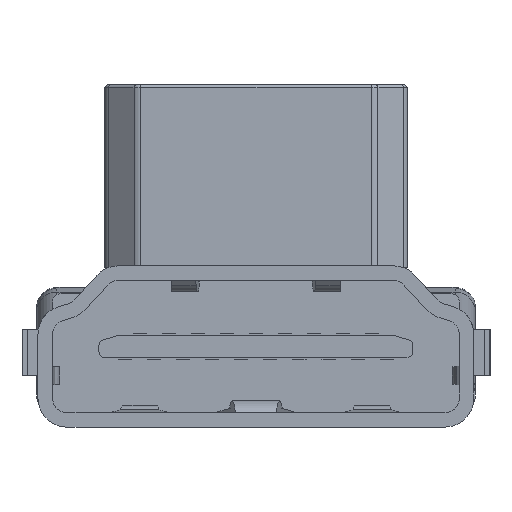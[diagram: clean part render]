
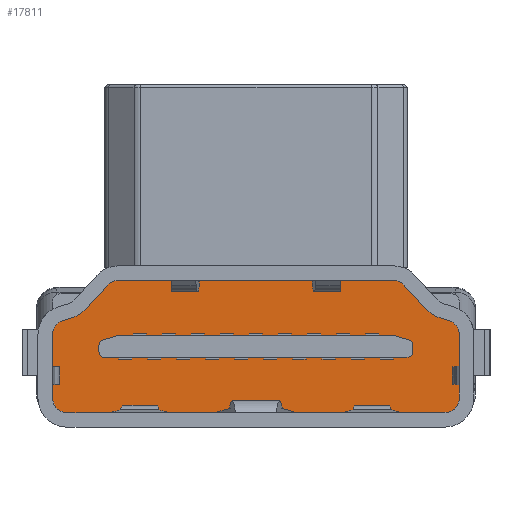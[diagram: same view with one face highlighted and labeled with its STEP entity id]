
A CAD part, front view. The second image highlights one B-rep face of the part: STEP entity #17811.
In plain terms, the highlighted planar face has unit normal (0, -1, 0) as drawn and (1, 0, 0) by its records, which use the part's own axes.
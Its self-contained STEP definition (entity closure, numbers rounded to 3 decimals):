
#16156 = VERTEX_POINT('',#16157);
#16157 = CARTESIAN_POINT('',(-6.8,-5.4,-0.037));
#16165 = EDGE_CURVE('',#16156,#16166,#16168,.T.);
#16166 = VERTEX_POINT('',#16167);
#16167 = CARTESIAN_POINT('',(-6.8,-5.255,-0.229));
#16168 = CIRCLE('',#16169,0.2);
#16169 = AXIS2_PLACEMENT_3D('',#16170,#16171,#16172);
#16170 = CARTESIAN_POINT('',(-6.8,-5.2,-0.037));
#16171 = DIRECTION('',(1.,0.,0.));
#16172 = DIRECTION('',(0.,-1.,0.));
#16198 = VERTEX_POINT('',#16199);
#16199 = CARTESIAN_POINT('',(-6.8,5.255,-0.229));
#16207 = EDGE_CURVE('',#16198,#16208,#16210,.T.);
#16208 = VERTEX_POINT('',#16209);
#16209 = CARTESIAN_POINT('',(-6.8,5.4,-0.037));
#16210 = CIRCLE('',#16211,0.2);
#16211 = AXIS2_PLACEMENT_3D('',#16212,#16213,#16214);
#16212 = CARTESIAN_POINT('',(-6.8,5.2,-0.037));
#16213 = DIRECTION('',(1.,0.,0.));
#16214 = DIRECTION('',(0.,-1.,0.));
#16240 = VERTEX_POINT('',#16241);
#16241 = CARTESIAN_POINT('',(-6.8,4.727,-0.38));
#16249 = EDGE_CURVE('',#16240,#16198,#16250,.T.);
#16250 = LINE('',#16251,#16252);
#16251 = CARTESIAN_POINT('',(-6.8,4.727,-0.38));
#16252 = VECTOR('',#16253,1.);
#16253 = DIRECTION('',(0.,0.962,0.275));
#16271 = EDGE_CURVE('',#16166,#16272,#16274,.T.);
#16272 = VERTEX_POINT('',#16273);
#16273 = CARTESIAN_POINT('',(-6.8,-4.727,-0.38));
#16274 = LINE('',#16275,#16276);
#16275 = CARTESIAN_POINT('',(-6.8,-5.255,-0.229));
#16276 = VECTOR('',#16277,1.);
#16277 = DIRECTION('',(0.,0.962,-0.275));
#16302 = VERTEX_POINT('',#16303);
#16303 = CARTESIAN_POINT('',(-6.8,-5.4,0.178));
#16311 = EDGE_CURVE('',#16302,#16156,#16312,.T.);
#16312 = LINE('',#16313,#16314);
#16313 = CARTESIAN_POINT('',(-6.8,-5.4,0.178));
#16314 = VECTOR('',#16315,1.);
#16315 = DIRECTION('',(0.,0.,-1.));
#16333 = EDGE_CURVE('',#16208,#16334,#16336,.T.);
#16334 = VERTEX_POINT('',#16335);
#16335 = CARTESIAN_POINT('',(-6.8,5.4,0.178));
#16336 = LINE('',#16337,#16338);
#16337 = CARTESIAN_POINT('',(-6.8,5.4,-0.037));
#16338 = VECTOR('',#16339,1.);
#16339 = DIRECTION('',(0.,0.,1.));
#16451 = VERTEX_POINT('',#16452);
#16452 = CARTESIAN_POINT('',(-6.8,-6.238,-1.61));
#16458 = EDGE_CURVE('',#16459,#16451,#16461,.T.);
#16459 = VERTEX_POINT('',#16460);
#16460 = CARTESIAN_POINT('',(-6.8,-6.456,-1.471));
#16461 = CIRCLE('',#16462,0.5);
#16462 = AXIS2_PLACEMENT_3D('',#16463,#16464,#16465);
#16463 = CARTESIAN_POINT('',(-6.8,-6.606,-1.948));
#16464 = DIRECTION('',(-1.,0.,0.));
#16465 = DIRECTION('',(0.,1.,0.));
#16493 = VERTEX_POINT('',#16494);
#16494 = CARTESIAN_POINT('',(-6.8,6.456,-1.471));
#16500 = EDGE_CURVE('',#16501,#16493,#16503,.T.);
#16501 = VERTEX_POINT('',#16502);
#16502 = CARTESIAN_POINT('',(-6.8,6.238,-1.61));
#16503 = CIRCLE('',#16504,0.5);
#16504 = AXIS2_PLACEMENT_3D('',#16505,#16506,#16507);
#16505 = CARTESIAN_POINT('',(-6.8,6.606,-1.948));
#16506 = DIRECTION('',(-1.,0.,0.));
#16507 = DIRECTION('',(0.,1.,0.));
#16524 = VERTEX_POINT('',#16525);
#16525 = CARTESIAN_POINT('',(-6.8,4.672,-0.388));
#16533 = EDGE_CURVE('',#16524,#16240,#16534,.T.);
#16534 = CIRCLE('',#16535,0.2);
#16535 = AXIS2_PLACEMENT_3D('',#16536,#16537,#16538);
#16536 = CARTESIAN_POINT('',(-6.8,4.672,-0.188));
#16537 = DIRECTION('',(1.,0.,0.));
#16538 = DIRECTION('',(0.,-1.,0.));
#16557 = EDGE_CURVE('',#16272,#16558,#16560,.T.);
#16558 = VERTEX_POINT('',#16559);
#16559 = CARTESIAN_POINT('',(-6.8,-4.672,-0.388));
#16560 = CIRCLE('',#16561,0.2);
#16561 = AXIS2_PLACEMENT_3D('',#16562,#16563,#16564);
#16562 = CARTESIAN_POINT('',(-6.8,-4.672,-0.188));
#16563 = DIRECTION('',(1.,0.,0.));
#16564 = DIRECTION('',(0.,-1.,0.));
#16590 = VERTEX_POINT('',#16591);
#16591 = CARTESIAN_POINT('',(-6.8,-5.2,0.378));
#16599 = EDGE_CURVE('',#16590,#16302,#16600,.T.);
#16600 = CIRCLE('',#16601,0.2);
#16601 = AXIS2_PLACEMENT_3D('',#16602,#16603,#16604);
#16602 = CARTESIAN_POINT('',(-6.8,-5.2,0.178));
#16603 = DIRECTION('',(1.,0.,0.));
#16604 = DIRECTION('',(0.,-1.,0.));
#16661 = VERTEX_POINT('',#16662);
#16662 = CARTESIAN_POINT('',(-6.8,5.2,0.378));
#16670 = EDGE_CURVE('',#16334,#16661,#16671,.T.);
#16671 = CIRCLE('',#16672,0.2);
#16672 = AXIS2_PLACEMENT_3D('',#16673,#16674,#16675);
#16673 = CARTESIAN_POINT('',(-6.8,5.2,0.178));
#16674 = DIRECTION('',(1.,0.,0.));
#16675 = DIRECTION('',(0.,-1.,0.));
#16882 = VERTEX_POINT('',#16883);
#16883 = CARTESIAN_POINT('',(-6.8,6.801,
    -1.362));
#16891 = EDGE_CURVE('',#16882,#16493,#16892,.T.);
#16892 = LINE('',#16893,#16894);
#16893 = CARTESIAN_POINT('',(-6.8,6.456,-1.471));
#16894 = VECTOR('',#16895,1.);
#16895 = DIRECTION('',(0.,-0.954,-0.301));
#16913 = EDGE_CURVE('',#16459,#16914,#16916,.T.);
#16914 = VERTEX_POINT('',#16915);
#16915 = CARTESIAN_POINT('',(-6.8,-6.801,-1.362));
#16916 = LINE('',#16917,#16918);
#16917 = CARTESIAN_POINT('',(-6.8,-6.801,-1.362));
#16918 = VECTOR('',#16919,1.);
#16919 = DIRECTION('',(0.,-0.954,0.301));
#16944 = VERTEX_POINT('',#16945);
#16945 = CARTESIAN_POINT('',(-6.8,-5.467,-2.451));
#16953 = EDGE_CURVE('',#16944,#16451,#16954,.T.);
#16954 = LINE('',#16955,#16956);
#16955 = CARTESIAN_POINT('',(-6.8,-6.238,-1.61));
#16956 = VECTOR('',#16957,1.);
#16957 = DIRECTION('',(0.,-0.676,0.737));
#16975 = EDGE_CURVE('',#16501,#16976,#16978,.T.);
#16976 = VERTEX_POINT('',#16977);
#16977 = CARTESIAN_POINT('',(-6.8,5.467,-2.451));
#16978 = LINE('',#16979,#16980);
#16979 = CARTESIAN_POINT('',(-6.8,5.467,-2.451));
#16980 = VECTOR('',#16981,1.);
#16981 = DIRECTION('',(0.,-0.676,-0.737));
#17007 = EDGE_CURVE('',#16524,#16558,#17008,.T.);
#17008 = LINE('',#17009,#17010);
#17009 = CARTESIAN_POINT('',(-6.8,0.,-0.388));
#17010 = VECTOR('',#17011,1.);
#17011 = DIRECTION('',(0.,-1.,0.));
#17023 = EDGE_CURVE('',#16590,#16661,#17024,.T.);
#17024 = LINE('',#17025,#17026);
#17025 = CARTESIAN_POINT('',(-6.8,0.,0.378));
#17026 = VECTOR('',#17027,1.);
#17027 = DIRECTION('',(0.,1.,0.));
#17600 = VERTEX_POINT('',#17601);
#17601 = CARTESIAN_POINT('',(-6.8,7.,-1.275));
#17609 = EDGE_CURVE('',#16882,#17600,#17610,.T.);
#17610 = CIRCLE('',#17611,1.);
#17611 = AXIS2_PLACEMENT_3D('',#17612,#17613,#17614);
#17612 = CARTESIAN_POINT('',(-6.8,6.5,
    -0.409));
#17613 = DIRECTION('',(1.,0.,0.));
#17614 = DIRECTION('',(0.,1.,0.));
#17644 = VERTEX_POINT('',#17645);
#17645 = CARTESIAN_POINT('',(-6.8,6.5,2.275));
#17651 = EDGE_CURVE('',#17652,#17644,#17654,.T.);
#17652 = VERTEX_POINT('',#17653);
#17653 = CARTESIAN_POINT('',(-6.8,7.,1.775));
#17654 = CIRCLE('',#17655,0.5);
#17655 = AXIS2_PLACEMENT_3D('',#17656,#17657,#17658);
#17656 = CARTESIAN_POINT('',(-6.8,6.5,1.775));
#17657 = DIRECTION('',(1.,0.,0.));
#17658 = DIRECTION('',(0.,1.,0.));
#17675 = EDGE_CURVE('',#17676,#16914,#17678,.T.);
#17676 = VERTEX_POINT('',#17677);
#17677 = CARTESIAN_POINT('',(-6.8,-7.,-1.275));
#17678 = CIRCLE('',#17679,1.);
#17679 = AXIS2_PLACEMENT_3D('',#17680,#17681,#17682);
#17680 = CARTESIAN_POINT('',(-6.8,-6.5,-0.409));
#17681 = DIRECTION('',(1.,0.,0.));
#17682 = DIRECTION('',(0.,1.,0.));
#17719 = VERTEX_POINT('',#17720);
#17720 = CARTESIAN_POINT('',(-6.8,-7.,1.775));
#17726 = EDGE_CURVE('',#17727,#17719,#17729,.T.);
#17727 = VERTEX_POINT('',#17728);
#17728 = CARTESIAN_POINT('',(-6.8,-6.5,2.275));
#17729 = CIRCLE('',#17730,0.5);
#17730 = AXIS2_PLACEMENT_3D('',#17731,#17732,#17733);
#17731 = CARTESIAN_POINT('',(-6.8,-6.5,1.775));
#17732 = DIRECTION('',(1.,0.,0.));
#17733 = DIRECTION('',(0.,1.,0.));
#17750 = VERTEX_POINT('',#17751);
#17751 = CARTESIAN_POINT('',(-6.8,-4.73,-2.775));
#17759 = EDGE_CURVE('',#16944,#17750,#17760,.T.);
#17760 = CIRCLE('',#17761,1.);
#17761 = AXIS2_PLACEMENT_3D('',#17762,#17763,#17764);
#17762 = CARTESIAN_POINT('',(-6.8,-4.73,-1.775));
#17763 = DIRECTION('',(1.,0.,0.));
#17764 = DIRECTION('',(0.,1.,0.));
#17783 = EDGE_CURVE('',#17784,#16976,#17786,.T.);
#17784 = VERTEX_POINT('',#17785);
#17785 = CARTESIAN_POINT('',(-6.8,4.73,-2.775));
#17786 = CIRCLE('',#17787,1.);
#17787 = AXIS2_PLACEMENT_3D('',#17788,#17789,#17790);
#17788 = CARTESIAN_POINT('',(-6.8,4.73,-1.775));
#17789 = DIRECTION('',(1.,0.,0.));
#17790 = DIRECTION('',(0.,1.,0.));
#17811 = ADVANCED_FACE('',(#17812,#17850),#17864,.T.);
#17812 = FACE_BOUND('',#17813,.T.);
#17813 = EDGE_LOOP('',(#17814,#17815,#17816,#17817,#17818,#17824,#17825,
    #17831,#17832,#17838,#17839,#17840,#17841,#17842,#17843,#17849));
#17814 = ORIENTED_EDGE('',*,*,#16975,.F.);
#17815 = ORIENTED_EDGE('',*,*,#16500,.T.);
#17816 = ORIENTED_EDGE('',*,*,#16891,.F.);
#17817 = ORIENTED_EDGE('',*,*,#17609,.T.);
#17818 = ORIENTED_EDGE('',*,*,#17819,.F.);
#17819 = EDGE_CURVE('',#17652,#17600,#17820,.T.);
#17820 = LINE('',#17821,#17822);
#17821 = CARTESIAN_POINT('',(-6.8,7.,-3.205));
#17822 = VECTOR('',#17823,1.);
#17823 = DIRECTION('',(0.,0.,-1.));
#17824 = ORIENTED_EDGE('',*,*,#17651,.T.);
#17825 = ORIENTED_EDGE('',*,*,#17826,.T.);
#17826 = EDGE_CURVE('',#17644,#17727,#17827,.T.);
#17827 = LINE('',#17828,#17829);
#17828 = CARTESIAN_POINT('',(-6.8,-6.5,2.275));
#17829 = VECTOR('',#17830,1.);
#17830 = DIRECTION('',(0.,-1.,0.));
#17831 = ORIENTED_EDGE('',*,*,#17726,.T.);
#17832 = ORIENTED_EDGE('',*,*,#17833,.F.);
#17833 = EDGE_CURVE('',#17676,#17719,#17834,.T.);
#17834 = LINE('',#17835,#17836);
#17835 = CARTESIAN_POINT('',(-6.8,-7.,-1.555));
#17836 = VECTOR('',#17837,1.);
#17837 = DIRECTION('',(0.,0.,1.));
#17838 = ORIENTED_EDGE('',*,*,#17675,.T.);
#17839 = ORIENTED_EDGE('',*,*,#16913,.F.);
#17840 = ORIENTED_EDGE('',*,*,#16458,.T.);
#17841 = ORIENTED_EDGE('',*,*,#16953,.F.);
#17842 = ORIENTED_EDGE('',*,*,#17759,.T.);
#17843 = ORIENTED_EDGE('',*,*,#17844,.F.);
#17844 = EDGE_CURVE('',#17784,#17750,#17845,.T.);
#17845 = LINE('',#17846,#17847);
#17846 = CARTESIAN_POINT('',(-6.8,-4.73,-2.775));
#17847 = VECTOR('',#17848,1.);
#17848 = DIRECTION('',(0.,-1.,0.));
#17849 = ORIENTED_EDGE('',*,*,#17783,.T.);
#17850 = FACE_BOUND('',#17851,.T.);
#17851 = EDGE_LOOP('',(#17852,#17853,#17854,#17855,#17856,#17857,#17858,
    #17859,#17860,#17861,#17862,#17863));
#17852 = ORIENTED_EDGE('',*,*,#16207,.F.);
#17853 = ORIENTED_EDGE('',*,*,#16249,.F.);
#17854 = ORIENTED_EDGE('',*,*,#16533,.F.);
#17855 = ORIENTED_EDGE('',*,*,#17007,.T.);
#17856 = ORIENTED_EDGE('',*,*,#16557,.F.);
#17857 = ORIENTED_EDGE('',*,*,#16271,.F.);
#17858 = ORIENTED_EDGE('',*,*,#16165,.F.);
#17859 = ORIENTED_EDGE('',*,*,#16311,.F.);
#17860 = ORIENTED_EDGE('',*,*,#16599,.F.);
#17861 = ORIENTED_EDGE('',*,*,#17023,.T.);
#17862 = ORIENTED_EDGE('',*,*,#16670,.F.);
#17863 = ORIENTED_EDGE('',*,*,#16333,.F.);
#17864 = PLANE('',#17865);
#17865 = AXIS2_PLACEMENT_3D('',#17866,#17867,#17868);
#17866 = CARTESIAN_POINT('',(-6.8,0.,0.));
#17867 = DIRECTION('',(1.,0.,0.));
#17868 = DIRECTION('',(0.,1.,0.));
